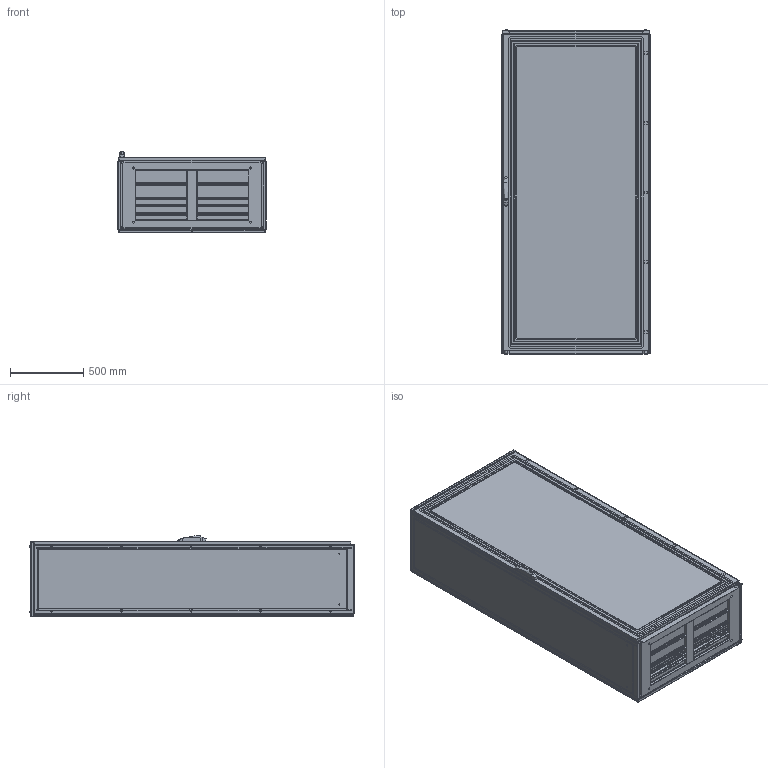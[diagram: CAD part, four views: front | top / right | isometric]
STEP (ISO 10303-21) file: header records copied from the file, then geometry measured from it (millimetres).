
FILE_DESCRIPTION (( 'STEP AP203' ), '1' );
FILE_NAME ('ENUX102205PV.STEP', '2025-05-29T09:07:53', ( '' ), ( '' ), 'SwSTEP 2.0', 'SolidWorks 2022', '' );
FILE_SCHEMA (( 'CONFIG_CONTROL_DESIGN' ));
Length unit declared in the file: millimetre
Products named in the file (14): AR_ENUX_Tetto_1000x0500; AR_ENUX_Vite_tetto; AR_ENUX_montaggio_porta_singlola_plexi_1000x2200_ANT_DX; AR_ENUX_Tegolino_1000x0100; AR_ENUX_Fianco_0500x2200_SX; AR_ENUX_Retro_CB_1000x2200; AR_ENUX_Porta_singola_plexi_1000x2200_ANT; AR_ENUX_Tegolino_1000x0050; AR_ENUX_Fianco_0500x2200_DX; AR_ENUX_nuova_maniglia_mesan; ENUX102205PV; AR_ENUX_Plexiglass_porte_1000x2200; AR_ENUX_Retro_IB_1000x2200; AR_ENUX_Struttura_1000x2200x0500
Assembly tree (22 placements, depth 3):
  ENUX102205PV
    AR_ENUX_Struttura_1000x2200x0500
    AR_ENUX_Fianco_0500x2200_SX
    AR_ENUX_Fianco_0500x2200_DX
    AR_ENUX_Tetto_1000x0500
    AR_ENUX_Vite_tetto  x4
    AR_ENUX_montaggio_porta_singlola_plexi_1000x2200_ANT_DX
      AR_ENUX_Porta_singola_plexi_1000x2200_ANT
      AR_ENUX_Plexiglass_porte_1000x2200
      AR_ENUX_nuova_maniglia_mesan
    AR_ENUX_Tegolino_1000x0050  x4
    AR_ENUX_Tegolino_1000x0100  x4
    AR_ENUX_Retro_CB_1000x2200
    AR_ENUX_Retro_IB_1000x2200
Bounding box: 1012 x 2215.1 x 557 mm (x, y, z)
Topology: 21 solids, 29 shells, 11109 faces, 29454 edges, 18943 vertices
Faces by surface type: plane 6384, cylinder 3700, bspline 365, torus 313, cone 262, sphere 85
Full cylindrical faces by diameter (mm): 4.4 x3
Entity records: 371095 total; most frequent: CARTESIAN_POINT 98089, ORIENTED_EDGE 56556, DIRECTION 54240, EDGE_CURVE 28278, LINE 19430, VECTOR 19430, VERTEX_POINT 18385, AXIS2_PLACEMENT_3D 17405
